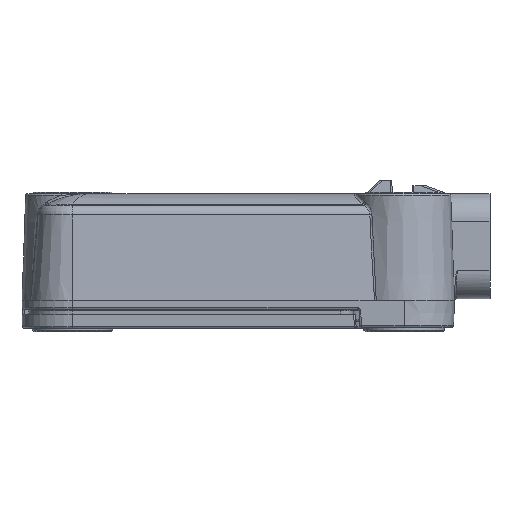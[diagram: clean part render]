
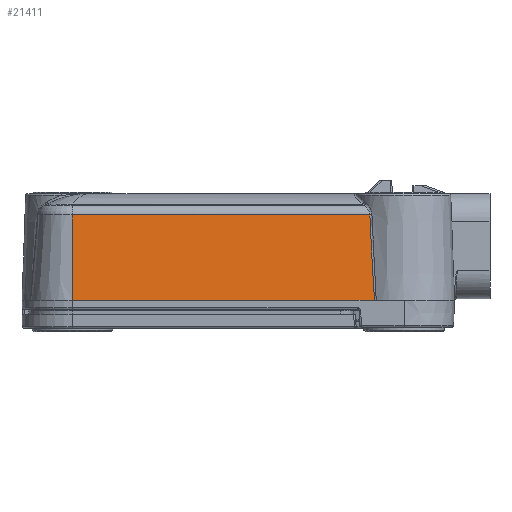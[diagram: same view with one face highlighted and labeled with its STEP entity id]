
A CAD part, front view. The second image highlights one B-rep face of the part: STEP entity #21411.
In plain terms, the highlighted planar face has unit normal (0, -0.996, 0.087).
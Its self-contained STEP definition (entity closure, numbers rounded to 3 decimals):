
#294=ELLIPSE('',#23232,82.004,6.553);
#760=LINE('',#34566,#2016);
#761=LINE('',#34570,#2017);
#762=LINE('',#34571,#2018);
#2016=VECTOR('',#26788,10.);
#2017=VECTOR('',#26793,10.);
#2018=VECTOR('',#26794,10.);
#4025=PLANE('',#23244);
#4849=FACE_OUTER_BOUND('',#6377,.T.);
#6377=EDGE_LOOP('',(#15310,#15311,#15312,#15313));
#9429=VERTEX_POINT('',#34440);
#9431=VERTEX_POINT('',#34447);
#9439=VERTEX_POINT('',#34565);
#9440=VERTEX_POINT('',#34569);
#11568=EDGE_CURVE('',#9431,#9429,#294,.T.);
#11583=EDGE_CURVE('',#9439,#9429,#760,.F.);
#11585=EDGE_CURVE('',#9440,#9431,#761,.T.);
#11586=EDGE_CURVE('',#9440,#9439,#762,.T.);
#15310=ORIENTED_EDGE('',*,*,#11568,.F.);
#15311=ORIENTED_EDGE('',*,*,#11585,.F.);
#15312=ORIENTED_EDGE('',*,*,#11586,.T.);
#15313=ORIENTED_EDGE('',*,*,#11583,.T.);
#21411=ADVANCED_FACE('',(#4849),#4025,.T.);
#23232=AXIS2_PLACEMENT_3D('',#34449,#26766,#26767);
#23244=AXIS2_PLACEMENT_3D('',#34568,#26791,#26792);
#26766=DIRECTION('center_axis',(0.,-0.996,0.087));
#26767=DIRECTION('ref_axis',(0.,-0.087,
-0.996));
#26788=DIRECTION('',(-1.,0.,0.));
#26791=DIRECTION('center_axis',(0.,-0.996,0.087));
#26792=DIRECTION('ref_axis',(-1.,0.,0.));
#26793=DIRECTION('',(1.,0.,0.));
#26794=DIRECTION('',(0.,-0.087,-0.996));
#34440=CARTESIAN_POINT('',(51.015,-25.994,0.));
#34447=CARTESIAN_POINT('',(50.225,-24.732,14.424));
#34449=CARTESIAN_POINT('Origin',(56.,-21.355,53.026));
#34565=CARTESIAN_POINT('',(0.,-25.994,0.));
#34566=CARTESIAN_POINT('',(42.,-25.994,0.));
#34568=CARTESIAN_POINT('Origin',(56.,-24.426,17.918));
#34569=CARTESIAN_POINT('',(0.,-24.732,14.424));
#34570=CARTESIAN_POINT('',(49.,-24.732,14.424));
#34571=CARTESIAN_POINT('',(0.,-26.3,-3.5));
